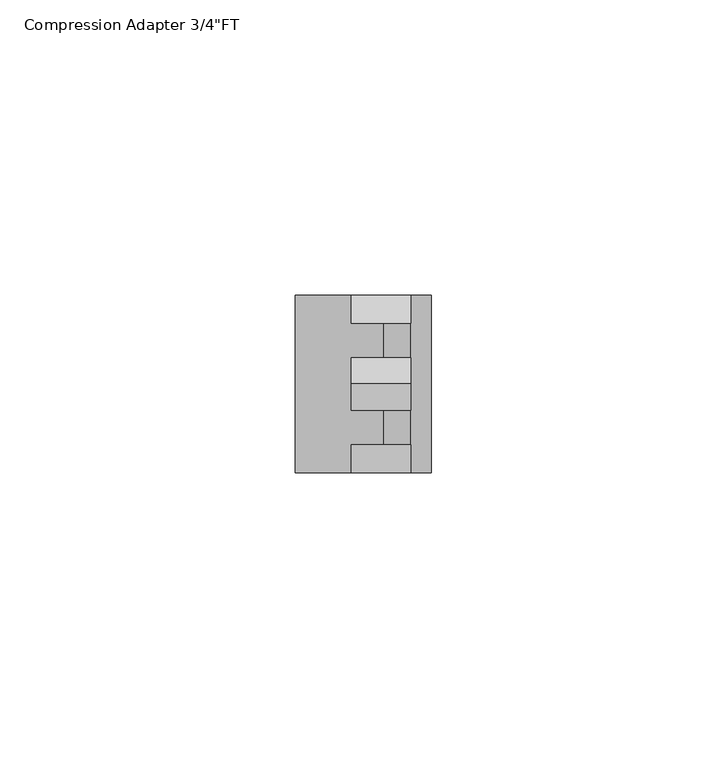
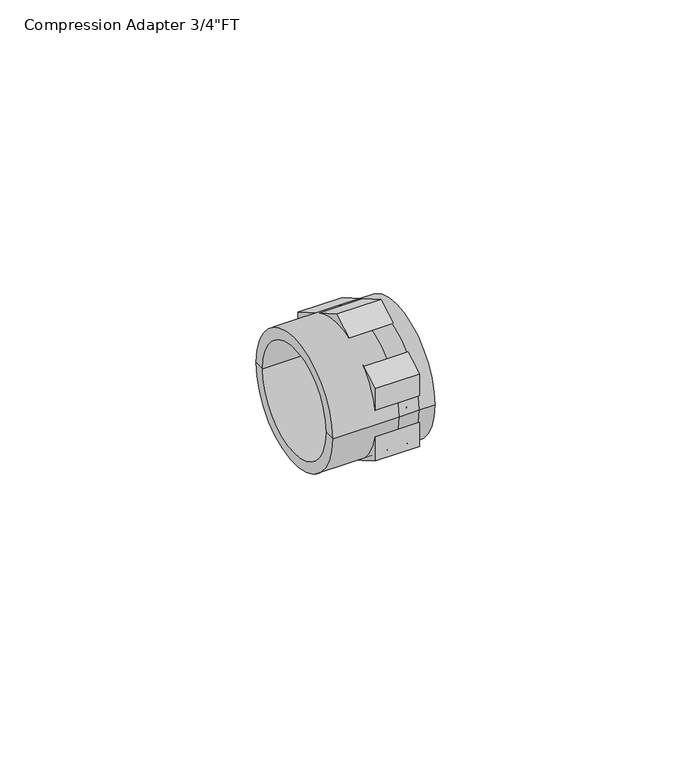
"""IFC4 building model written with IfcOpenShell, lengths in millimetres: pipe fitting geometry."""

from ifc_helpers import new_model, si_unit, point, frame, origin, origin_2d, place, context, project, spatial, polyline, circle_curve, trimmed, segment, composite_curve, outline, extrude, source, transform, mapped, element, save
from ifc_brep_helpers import plane_surface, cylinder_surface, revolved_surface, advanced_brep


def pipe_fitting_8ddd92a3(model_context):
    return source(origin(), model_context, "Body", "SolidModel", [
        advanced_brep(
        [(18.0, 12.5, 0.0), (0.0, 12.5, 0.0), (0.0, -12.5, 0.0), (18.0, -12.5, 0.0), (19.5, 10.0, 0.0), (19.5, -10.0, 0.0), (23.0, 10.0, 0.0), (23.0, -10.0, 0.0), (23.0, 15.0, 0.0), (23.0, -15.0, 0.0), (19.5, 15.0, 0.0), (19.5, -15.0, 0.0), (15.0, 15.0, 0.0), (15.0, -15.0, 0.0), (0.0, 15.0, 0.0), (0.0, -15.0, 0.0)],
        [
            (0, 1),
            (1, 2, circle_curve(frame((0.0, 0.0, 0.0), z_axis=(-1.0, 0.0, 0.0), x_axis=(0.0, -1.0, 0.0)), 12.5)),
            (2, 3),
            (3, 0, circle_curve(frame((18.0, 0.0, 0.0), z_axis=(1.0, 0.0, 0.0), x_axis=(0.0, -1.0, 0.0)), 12.5)),
            (2, 1, circle_curve(frame((0.0, 0.0, 0.0), z_axis=(-1.0, 0.0, 0.0), x_axis=(0.0, -1.0, 0.0)), 12.5)),
            (0, 3, circle_curve(frame((18.0, 0.0, 0.0), z_axis=(1.0, 0.0, 0.0), x_axis=(0.0, -1.0, 0.0)), 12.5)),
            (4, 0),
            (3, 5),
            (5, 4, circle_curve(frame((19.5, 0.0, 0.0), z_axis=(1.0, 0.0, 0.0), x_axis=(0.0, -1.0, 0.0)), 10.0)),
            (4, 5, circle_curve(frame((19.5, 0.0, 0.0), z_axis=(1.0, 0.0, 0.0), x_axis=(0.0, -1.0, 0.0)), 10.0)),
            (6, 4),
            (5, 7),
            (7, 6, circle_curve(frame((23.0, 0.0, 0.0), z_axis=(1.0, 0.0, 0.0), x_axis=(0.0, -1.0, 0.0)), 10.0)),
            (6, 7, circle_curve(frame((23.0, 0.0, 0.0), z_axis=(1.0, 0.0, 0.0), x_axis=(0.0, -1.0, 0.0)), 10.0)),
            (8, 6),
            (7, 9),
            (9, 8, circle_curve(frame((23.0, 0.0, 0.0), z_axis=(1.0, 0.0, 0.0), x_axis=(0.0, -1.0, 0.0)), 15.0)),
            (8, 9, circle_curve(frame((23.0, 0.0, 0.0), z_axis=(1.0, 0.0, 0.0), x_axis=(0.0, -1.0, 0.0)), 15.0)),
            (10, 8),
            (9, 11),
            (11, 10, circle_curve(frame((19.5, 0.0, 0.0), z_axis=(1.0, 0.0, 0.0), x_axis=(0.0, -1.0, 0.0)), 15.0)),
            (10, 11, circle_curve(frame((19.5, 0.0, 0.0), z_axis=(1.0, 0.0, 0.0), x_axis=(0.0, -1.0, 0.0)), 15.0)),
            (12, 10),
            (11, 13),
            (13, 12, circle_curve(frame((15.0, 0.0, 0.0), z_axis=(1.0, 0.0, 0.0), x_axis=(0.0, -1.0, 0.0)), 15.0)),
            (12, 13, circle_curve(frame((15.0, 0.0, 0.0), z_axis=(1.0, 0.0, 0.0), x_axis=(0.0, -1.0, 0.0)), 15.0)),
            (14, 12),
            (13, 15),
            (15, 14, circle_curve(frame((0.0, 0.0, 0.0), z_axis=(1.0, 0.0, 0.0), x_axis=(0.0, -1.0, 0.0)), 15.0)),
            (14, 15, circle_curve(frame((0.0, 0.0, 0.0), z_axis=(1.0, 0.0, 0.0), x_axis=(0.0, -1.0, 0.0)), 15.0)),
            (1, 14),
            (15, 2),
        ],
        [
            revolved_surface(polyline([(0.0, -12.5, 0.0), (18.0, -12.5, 0.0)]), (2001.0, 0.0, 0.0), (-1.0, 0.0, 0.0)),
            revolved_surface(polyline([(18.0, -12.5, 0.0), (19.5, -10.0, 0.0)]), (2001.0, 0.0, 0.0), (-1.0, 0.0, 0.0)),
            revolved_surface(polyline([(19.5, -10.0, 0.0), (23.0, -10.0, 0.0)]), (2001.0, 0.0, 0.0), (-1.0, 0.0, 0.0)),
            plane_surface(frame((23.0, 0.0, 0.0), z_axis=(1.0, 0.0, 0.0), x_axis=(0.0, -1.0, 0.0))),
            cylinder_surface(frame((2001.0, 0.0, 0.0), z_axis=(-1.0, 0.0, 0.0), x_axis=(0.0, -1.0, 0.0)), 15.0),
            plane_surface(frame((0.0, 0.0, 0.0), z_axis=(-1.0, 0.0, 0.0), x_axis=(0.0, -1.0, 0.0))),
        ],
        [
            (0, [[1, 2, 3, 4]]),
            (0, [[-3, 5, -1, 6]]),
            (1, [[7, -4, 8, 9]]),
            (1, [[-8, -6, -7, 10]]),
            (2, [[11, -9, 12, 13]]),
            (2, [[-12, -10, -11, 14]]),
            (3, [[15, -13, 16, 17]]),
            (3, [[-16, -14, -15, 18]]),
            (4, [[19, -17, 20, 21]]),
            (4, [[-20, -18, -19, 22]]),
            (4, [[23, -21, 24, 25]]),
            (4, [[-24, -22, -23, 26]]),
            (4, [[27, -25, 28, 29]]),
            (4, [[-28, -26, -27, 30]]),
            (5, [[31, -29, 32, -2]]),
            (5, [[-32, -30, -31, -5]]),
        ],
    ),
        extrude(outline(polyline([(0.0, 17.3205081), (15.0, 8.660254), (15.0, -8.660254), (0.0, -17.3205081), (-15.0, -8.660254), (-15.0, 8.660254), (0.0, 17.3205081)]), holes=[composite_curve([segment(trimmed(circle_curve(origin_2d(), 12.5), [point((12.5, 0.0))], [point((-12.5, 0.0))], True, "CARTESIAN"), True, "CONTINUOUS"), segment(trimmed(circle_curve(origin_2d(), 12.5), [point((-12.5, 0.0))], [point((12.5, 0.0))], True, "CARTESIAN"), True, "CONTINUOUS")], self_intersect=False)]), frame((9.5, 0.0, 0.0), z_axis=(1.0, 0.0, 0.0), x_axis=(0.0, 1.0, 0.0)), (0.0, 0.0, 1.0), 10.0),
    ])


if __name__ == "__main__":
    model = new_model("IFC4")
    model_context = context("Model", 3, world=origin())
    ifc_project = project(units=[si_unit("LENGTHUNIT", "METRE", prefix="MILLI")], contexts=[model_context])
    site = spatial("IfcSite", under=ifc_project)
    building = spatial("IfcBuilding", under=site)
    placement = place(None, origin())
    pipe_fitting_shape = pipe_fitting_8ddd92a3(model_context)
    element("IfcPipeFitting", 1, ObjectType="Compression Adapter 3/4\"FT : Superpipe Compression Adapter", at=placement, inside=building, context=model_context, shape_type="MappedRepresentation", body=[
        mapped(pipe_fitting_shape, transform((0.0, 0.0, 0.0), x_axis=(1.0, 0.0, 0.0), y_axis=(0.0, 1.0, 0.0), z_axis=(0.0, 0.0, 1.0))),
    ])
    save(model, "model.ifc")
